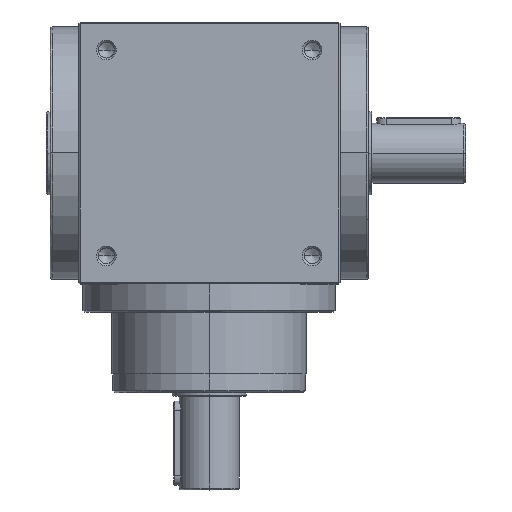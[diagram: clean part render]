
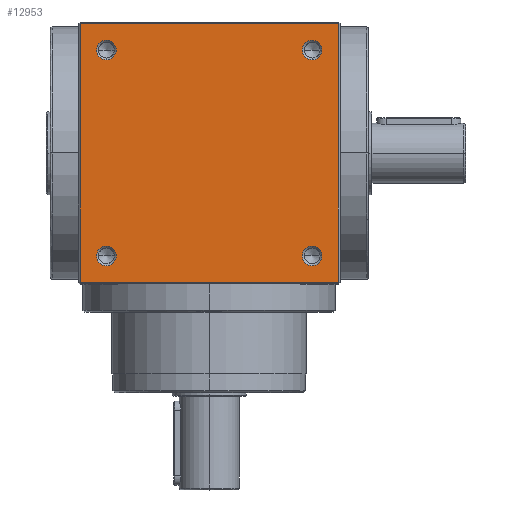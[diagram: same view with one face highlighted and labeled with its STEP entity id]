
A CAD part, top view. The second image highlights one B-rep face of the part: STEP entity #12953.
In plain terms, the highlighted planar face has unit normal (0, 0, 1).
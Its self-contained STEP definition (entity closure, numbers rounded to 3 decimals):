
#38 = AXIS2_PLACEMENT_3D ( 'NONE', #844, #273, #7510 ) ;
#115 = VERTEX_POINT ( 'NONE', #4800 ) ;
#123 = DIRECTION ( 'NONE',  ( 0., -1., 0. ) ) ;
#200 = DIRECTION ( 'NONE',  ( 1., 0., 0. ) ) ;
#273 = DIRECTION ( 'NONE',  ( 0., 0., 1. ) ) ;
#305 = CARTESIAN_POINT ( 'NONE',  ( 69., 0., 70. ) ) ;
#426 = VECTOR ( 'NONE', #11510, 1000. ) ;
#641 = AXIS2_PLACEMENT_3D ( 'NONE', #1446, #2864, #1780 ) ;
#844 = CARTESIAN_POINT ( 'NONE',  ( 55., -55., 70. ) ) ;
#1031 = VERTEX_POINT ( 'NONE', #10955 ) ;
#1109 = CARTESIAN_POINT ( 'NONE',  ( 55., 55., 70. ) ) ;
#1324 = VECTOR ( 'NONE', #5336, 1000. ) ;
#1327 = CIRCLE ( 'NONE', #6051, 5.25 ) ;
#1446 = CARTESIAN_POINT ( 'NONE',  ( -55., 55., 70. ) ) ;
#1503 = EDGE_CURVE ( 'NONE', #3892, #8748, #11955, .T. ) ;
#1505 = DIRECTION ( 'NONE',  ( 1., 0., 0. ) ) ;
#1549 = DIRECTION ( 'NONE',  ( 0., 0., 1. ) ) ;
#1568 = CARTESIAN_POINT ( 'NONE',  ( 69., -69., 70. ) ) ;
#1594 = CARTESIAN_POINT ( 'NONE',  ( -55., -55., 70. ) ) ;
#1621 = DIRECTION ( 'NONE',  ( 1., 0., 0. ) ) ;
#1694 = CARTESIAN_POINT ( 'NONE',  ( -60.25, -55., 70. ) ) ;
#1728 = ORIENTED_EDGE ( 'NONE', *, *, #6966, .F. ) ;
#1780 = DIRECTION ( 'NONE',  ( 1., 0., 0. ) ) ;
#1912 = EDGE_LOOP ( 'NONE', ( #3328, #6771 ) ) ;
#1961 = ORIENTED_EDGE ( 'NONE', *, *, #11621, .F. ) ;
#2012 = DIRECTION ( 'NONE',  ( 1., 0., 0. ) ) ;
#2625 = CARTESIAN_POINT ( 'NONE',  ( 69., 69., 70. ) ) ;
#2771 = AXIS2_PLACEMENT_3D ( 'NONE', #1594, #1549, #1505 ) ;
#2864 = DIRECTION ( 'NONE',  ( 0., 0., 1. ) ) ;
#3225 = EDGE_CURVE ( 'NONE', #7107, #11189, #3278, .T. ) ;
#3278 = LINE ( 'NONE', #12199, #426 ) ;
#3287 = DIRECTION ( 'NONE',  ( 0., 0., 1. ) ) ;
#3306 = CARTESIAN_POINT ( 'NONE',  ( 55., 55., 70. ) ) ;
#3328 = ORIENTED_EDGE ( 'NONE', *, *, #11092, .F. ) ;
#3510 = FACE_BOUND ( 'NONE', #8305, .T. ) ;
#3523 = EDGE_CURVE ( 'NONE', #11126, #7107, #7644, .T. ) ;
#3785 = AXIS2_PLACEMENT_3D ( 'NONE', #12057, #5894, #1621 ) ;
#3846 = FACE_BOUND ( 'NONE', #8202, .T. ) ;
#3892 = VERTEX_POINT ( 'NONE', #3929 ) ;
#3929 = CARTESIAN_POINT ( 'NONE',  ( -60.25, 55., 70. ) ) ;
#3978 = LINE ( 'NONE', #8049, #1324 ) ;
#4034 = ORIENTED_EDGE ( 'NONE', *, *, #3523, .F. ) ;
#4077 = CIRCLE ( 'NONE', #4955, 5.25 ) ;
#4202 = CARTESIAN_POINT ( 'NONE',  ( -49.75, 55., 70. ) ) ;
#4219 = CIRCLE ( 'NONE', #3785, 5.25 ) ;
#4360 = PLANE ( 'NONE',  #12743 ) ;
#4381 = EDGE_CURVE ( 'NONE', #11189, #11300, #3978, .T. ) ;
#4800 = CARTESIAN_POINT ( 'NONE',  ( 60.25, -55., 70. ) ) ;
#4875 = ORIENTED_EDGE ( 'NONE', *, *, #7453, .F. ) ;
#4955 = AXIS2_PLACEMENT_3D ( 'NONE', #1109, #12318, #12296 ) ;
#5055 = EDGE_LOOP ( 'NONE', ( #4034, #12787, #8325, #10344 ) ) ;
#5188 = AXIS2_PLACEMENT_3D ( 'NONE', #7085, #7081, #7071 ) ;
#5336 = DIRECTION ( 'NONE',  ( 1., 0., 0. ) ) ;
#5348 = CIRCLE ( 'NONE', #641, 5.25 ) ;
#5575 = VERTEX_POINT ( 'NONE', #12286 ) ;
#5894 = DIRECTION ( 'NONE',  ( 0., 0., 1. ) ) ;
#5941 = CARTESIAN_POINT ( 'NONE',  ( 0., 0., 70. ) ) ;
#6002 = CARTESIAN_POINT ( 'NONE',  ( -69., 69., 70. ) ) ;
#6051 = AXIS2_PLACEMENT_3D ( 'NONE', #3306, #3287, #200 ) ;
#6117 = DIRECTION ( 'NONE',  ( 0., 0., -1. ) ) ;
#6174 = DIRECTION ( 'NONE',  ( -1., 0., 0. ) ) ;
#6287 = FACE_BOUND ( 'NONE', #1912, .T. ) ;
#6614 = VECTOR ( 'NONE', #123, 1000. ) ;
#6723 = EDGE_CURVE ( 'NONE', #1031, #10493, #1327, .T. ) ;
#6771 = ORIENTED_EDGE ( 'NONE', *, *, #1503, .F. ) ;
#6950 = CIRCLE ( 'NONE', #2771, 5.25 ) ;
#6966 = EDGE_CURVE ( 'NONE', #10493, #1031, #4077, .T. ) ;
#7071 = DIRECTION ( 'NONE',  ( 1., 0., 0. ) ) ;
#7081 = DIRECTION ( 'NONE',  ( 0., 0., 1. ) ) ;
#7085 = CARTESIAN_POINT ( 'NONE',  ( -55., 55., 70. ) ) ;
#7107 = VERTEX_POINT ( 'NONE', #12838 ) ;
#7453 = EDGE_CURVE ( 'NONE', #11114, #5575, #6950, .T. ) ;
#7510 = DIRECTION ( 'NONE',  ( 1., 0., 0. ) ) ;
#7530 = VERTEX_POINT ( 'NONE', #9788 ) ;
#7644 = LINE ( 'NONE', #7895, #11080 ) ;
#7698 = CIRCLE ( 'NONE', #9150, 5.25 ) ;
#7895 = CARTESIAN_POINT ( 'NONE',  ( 0., -69., 70. ) ) ;
#8020 = DIRECTION ( 'NONE',  ( -1., 0., 0. ) ) ;
#8049 = CARTESIAN_POINT ( 'NONE',  ( 0., 69., 70. ) ) ;
#8202 = EDGE_LOOP ( 'NONE', ( #9848, #1728 ) ) ;
#8305 = EDGE_LOOP ( 'NONE', ( #8753, #4875 ) ) ;
#8325 = ORIENTED_EDGE ( 'NONE', *, *, #4381, .F. ) ;
#8748 = VERTEX_POINT ( 'NONE', #4202 ) ;
#8753 = ORIENTED_EDGE ( 'NONE', *, *, #11014, .F. ) ;
#8850 = FACE_BOUND ( 'NONE', #11572, .T. ) ;
#9054 = EDGE_CURVE ( 'NONE', #115, #7530, #11856, .T. ) ;
#9150 = AXIS2_PLACEMENT_3D ( 'NONE', #10575, #10564, #2012 ) ;
#9488 = LINE ( 'NONE', #305, #6614 ) ;
#9788 = CARTESIAN_POINT ( 'NONE',  ( 49.75, -55., 70. ) ) ;
#9848 = ORIENTED_EDGE ( 'NONE', *, *, #6723, .F. ) ;
#10344 = ORIENTED_EDGE ( 'NONE', *, *, #3225, .F. ) ;
#10493 = VERTEX_POINT ( 'NONE', #11132 ) ;
#10564 = DIRECTION ( 'NONE',  ( 0., 0., 1. ) ) ;
#10575 = CARTESIAN_POINT ( 'NONE',  ( 55., -55., 70. ) ) ;
#10955 = CARTESIAN_POINT ( 'NONE',  ( 60.25, 55., 70. ) ) ;
#11014 = EDGE_CURVE ( 'NONE', #5575, #11114, #4219, .T. ) ;
#11080 = VECTOR ( 'NONE', #8020, 1000. ) ;
#11092 = EDGE_CURVE ( 'NONE', #8748, #3892, #5348, .T. ) ;
#11114 = VERTEX_POINT ( 'NONE', #1694 ) ;
#11123 = ORIENTED_EDGE ( 'NONE', *, *, #9054, .F. ) ;
#11126 = VERTEX_POINT ( 'NONE', #1568 ) ;
#11132 = CARTESIAN_POINT ( 'NONE',  ( 49.75, 55., 70. ) ) ;
#11189 = VERTEX_POINT ( 'NONE', #6002 ) ;
#11300 = VERTEX_POINT ( 'NONE', #2625 ) ;
#11471 = FACE_OUTER_BOUND ( 'NONE', #5055, .T. ) ;
#11510 = DIRECTION ( 'NONE',  ( 0., 1., 0. ) ) ;
#11572 = EDGE_LOOP ( 'NONE', ( #11123, #1961 ) ) ;
#11621 = EDGE_CURVE ( 'NONE', #7530, #115, #7698, .T. ) ;
#11856 = CIRCLE ( 'NONE', #38, 5.25 ) ;
#11955 = CIRCLE ( 'NONE', #5188, 5.25 ) ;
#12057 = CARTESIAN_POINT ( 'NONE',  ( -55., -55., 70. ) ) ;
#12199 = CARTESIAN_POINT ( 'NONE',  ( -69., 0., 70. ) ) ;
#12286 = CARTESIAN_POINT ( 'NONE',  ( -49.75, -55., 70. ) ) ;
#12296 = DIRECTION ( 'NONE',  ( 1., 0., 0. ) ) ;
#12318 = DIRECTION ( 'NONE',  ( 0., 0., 1. ) ) ;
#12743 = AXIS2_PLACEMENT_3D ( 'NONE', #5941, #6117, #6174 ) ;
#12787 = ORIENTED_EDGE ( 'NONE', *, *, #12828, .F. ) ;
#12828 = EDGE_CURVE ( 'NONE', #11300, #11126, #9488, .T. ) ;
#12838 = CARTESIAN_POINT ( 'NONE',  ( -69., -69., 70. ) ) ;
#12953 = ADVANCED_FACE ( 'NONE', ( #6287, #3846, #3510, #8850, #11471 ), #4360, .F. ) ;
